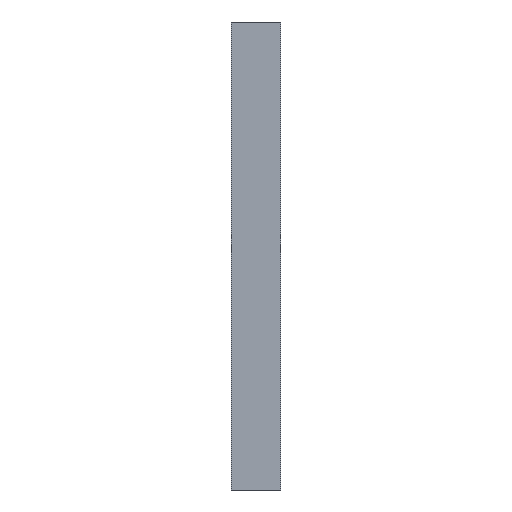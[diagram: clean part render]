
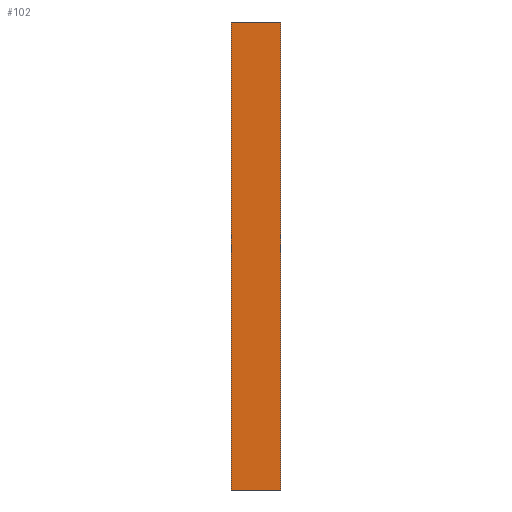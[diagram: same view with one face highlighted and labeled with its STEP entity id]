
A CAD part, front view. The second image highlights one B-rep face of the part: STEP entity #102.
In plain terms, the highlighted planar face has unit normal (0, -1, 0).
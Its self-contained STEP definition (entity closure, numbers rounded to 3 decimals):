
#1 = CARTESIAN_POINT ( 'NONE',  ( 24., 0., 225. ) ) ;
#6 = VERTEX_POINT ( 'NONE', #42 ) ;
#14 = CARTESIAN_POINT ( 'NONE',  ( 0., 0., 225. ) ) ;
#16 = CARTESIAN_POINT ( 'NONE',  ( 24., 0., 0. ) ) ;
#24 = CARTESIAN_POINT ( 'NONE',  ( 0., 0., 0. ) ) ;
#32 = LINE ( 'NONE', #1, #46 ) ;
#38 = AXIS2_PLACEMENT_3D ( 'NONE', #60, #74, #47 ) ;
#42 = CARTESIAN_POINT ( 'NONE',  ( 0., 0., 0. ) ) ;
#45 = LINE ( 'NONE', #94, #188 ) ;
#46 = VECTOR ( 'NONE', #126, 1000. ) ;
#47 = DIRECTION ( 'NONE',  ( 0., 0., 1. ) ) ;
#50 = EDGE_CURVE ( 'NONE', #6, #129, #144, .T. ) ;
#56 = VERTEX_POINT ( 'NONE', #161 ) ;
#59 = DIRECTION ( 'NONE',  ( 1., 0., 0. ) ) ;
#60 = CARTESIAN_POINT ( 'NONE',  ( 0., 0., 225. ) ) ;
#66 = VERTEX_POINT ( 'NONE', #117 ) ;
#74 = DIRECTION ( 'NONE',  ( 0., 1., 0. ) ) ;
#76 = DIRECTION ( 'NONE',  ( 0., 0., -1. ) ) ;
#80 = EDGE_CURVE ( 'NONE', #56, #66, #83, .T. ) ;
#83 = LINE ( 'NONE', #14, #139 ) ;
#85 = ORIENTED_EDGE ( 'NONE', *, *, #186, .F. ) ;
#94 = CARTESIAN_POINT ( 'NONE',  ( 0., 0., 225. ) ) ;
#102 = ADVANCED_FACE ( 'NONE', ( #187 ), #182, .F. ) ;
#117 = CARTESIAN_POINT ( 'NONE',  ( 24., 0., 225. ) ) ;
#118 = ORIENTED_EDGE ( 'NONE', *, *, #50, .T. ) ;
#126 = DIRECTION ( 'NONE',  ( 0., 0., -1. ) ) ;
#129 = VERTEX_POINT ( 'NONE', #16 ) ;
#139 = VECTOR ( 'NONE', #59, 1000. ) ;
#144 = LINE ( 'NONE', #24, #184 ) ;
#161 = CARTESIAN_POINT ( 'NONE',  ( 0., 0., 225. ) ) ;
#163 = EDGE_CURVE ( 'NONE', #56, #6, #45, .T. ) ;
#164 = ORIENTED_EDGE ( 'NONE', *, *, #163, .T. ) ;
#175 = DIRECTION ( 'NONE',  ( 1., 0., 0. ) ) ;
#178 = ORIENTED_EDGE ( 'NONE', *, *, #80, .F. ) ;
#182 = PLANE ( 'NONE',  #38 ) ;
#184 = VECTOR ( 'NONE', #175, 1000. ) ;
#186 = EDGE_CURVE ( 'NONE', #66, #129, #32, .T. ) ;
#187 = FACE_OUTER_BOUND ( 'NONE', #195, .T. ) ;
#188 = VECTOR ( 'NONE', #76, 1000. ) ;
#195 = EDGE_LOOP ( 'NONE', ( #118, #85, #178, #164 ) ) ;
